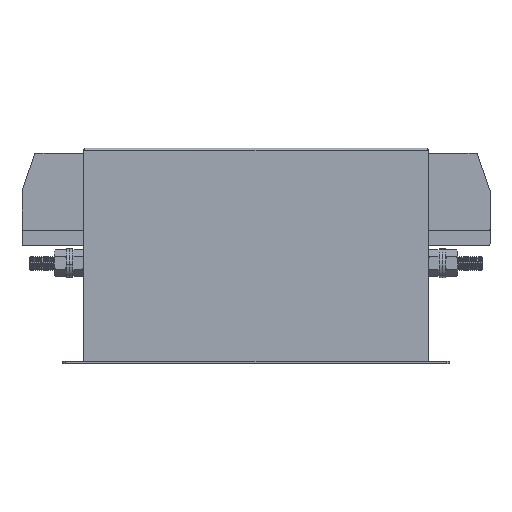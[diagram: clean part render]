
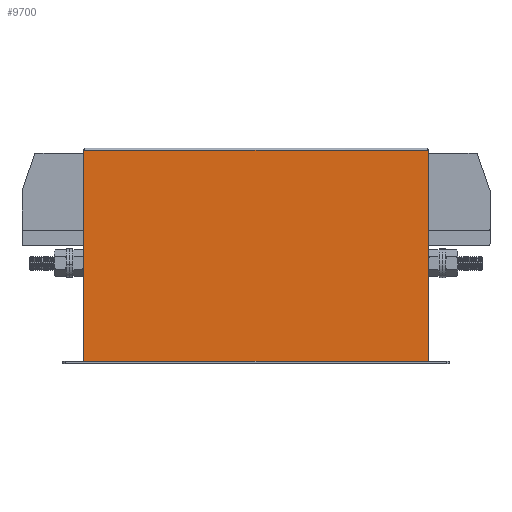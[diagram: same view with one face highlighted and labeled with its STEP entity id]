
A CAD part, top view. The second image highlights one B-rep face of the part: STEP entity #9700.
In plain terms, the highlighted planar face has unit normal (0, 0, 1).
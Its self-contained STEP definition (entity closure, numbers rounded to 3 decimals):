
#631 = ORIENTED_EDGE ( 'NONE', *, *, #7203, .F. ) ;
#793 = ORIENTED_EDGE ( 'NONE', *, *, #9283, .T. ) ;
#932 = CARTESIAN_POINT ( 'NONE',  ( 15., 150., 1.5 ) ) ;
#1460 = VERTEX_POINT ( 'NONE', #1796 ) ;
#1796 = CARTESIAN_POINT ( 'NONE',  ( 15., 1.5, 1.5 ) ) ;
#1818 = VECTOR ( 'NONE', #2102, 1000. ) ;
#1839 = CARTESIAN_POINT ( 'NONE',  ( 255., 148.5, 1.5 ) ) ;
#2075 = DIRECTION ( 'NONE',  ( -1., 0., 0. ) ) ;
#2102 = DIRECTION ( 'NONE',  ( 0., -1., 0. ) ) ;
#2843 = EDGE_LOOP ( 'NONE', ( #631, #5358, #8478, #793 ) ) ;
#2882 = DIRECTION ( 'NONE',  ( 0., 0., -1. ) ) ;
#3024 = CARTESIAN_POINT ( 'NONE',  ( 15., 150., 1.5 ) ) ;
#3227 = DIRECTION ( 'NONE',  ( 0., -1., 0. ) ) ;
#3668 = LINE ( 'NONE', #932, #3919 ) ;
#3705 = EDGE_CURVE ( 'NONE', #4066, #9108, #6713, .T. ) ;
#3736 = VERTEX_POINT ( 'NONE', #7011 ) ;
#3919 = VECTOR ( 'NONE', #3227, 1000. ) ;
#4064 = CARTESIAN_POINT ( 'NONE',  ( 15., 1.5, 1.5 ) ) ;
#4066 = VERTEX_POINT ( 'NONE', #1839 ) ;
#5358 = ORIENTED_EDGE ( 'NONE', *, *, #3705, .T. ) ;
#6126 = PLANE ( 'NONE',  #8376 ) ;
#6243 = CARTESIAN_POINT ( 'NONE',  ( 15., 148.5, 1.5 ) ) ;
#6593 = VECTOR ( 'NONE', #7902, 1000. ) ;
#6713 = LINE ( 'NONE', #8665, #6593 ) ;
#6825 = FACE_OUTER_BOUND ( 'NONE', #2843, .T. ) ;
#6956 = LINE ( 'NONE', #4064, #9614 ) ;
#7011 = CARTESIAN_POINT ( 'NONE',  ( 255., 1.5, 1.5 ) ) ;
#7203 = EDGE_CURVE ( 'NONE', #4066, #3736, #9252, .T. ) ;
#7902 = DIRECTION ( 'NONE',  ( -1., 0., 0. ) ) ;
#8041 = DIRECTION ( 'NONE',  ( 1., 0., 0. ) ) ;
#8376 = AXIS2_PLACEMENT_3D ( 'NONE', #3024, #2882, #2075 ) ;
#8478 = ORIENTED_EDGE ( 'NONE', *, *, #9947, .T. ) ;
#8665 = CARTESIAN_POINT ( 'NONE',  ( 15., 148.5, 1.5 ) ) ;
#9108 = VERTEX_POINT ( 'NONE', #6243 ) ;
#9252 = LINE ( 'NONE', #9324, #1818 ) ;
#9283 = EDGE_CURVE ( 'NONE', #1460, #3736, #6956, .T. ) ;
#9324 = CARTESIAN_POINT ( 'NONE',  ( 255., 150., 1.5 ) ) ;
#9614 = VECTOR ( 'NONE', #8041, 1000. ) ;
#9700 = ADVANCED_FACE ( 'NONE', ( #6825 ), #6126, .F. ) ;
#9947 = EDGE_CURVE ( 'NONE', #9108, #1460, #3668, .T. ) ;
